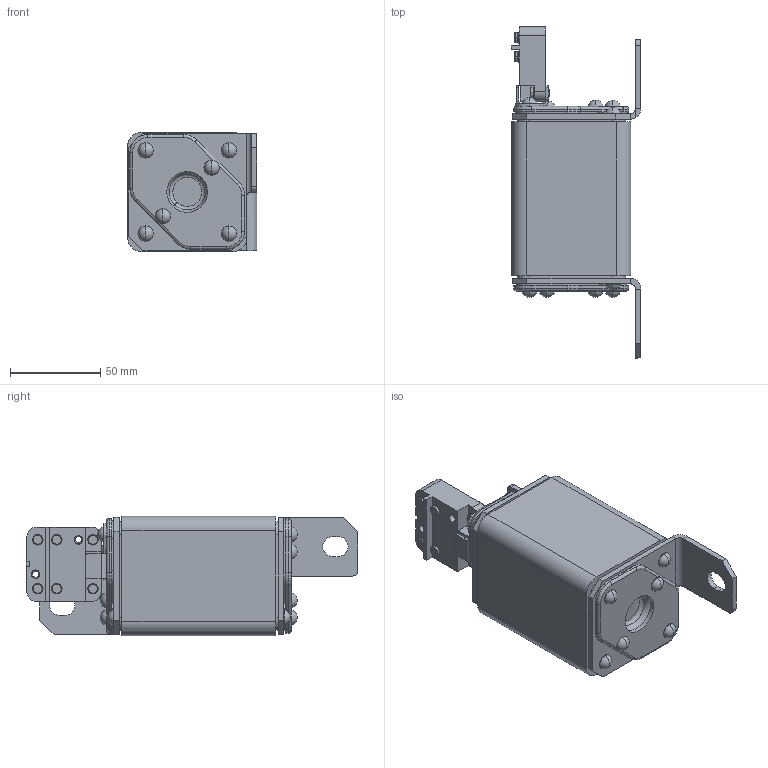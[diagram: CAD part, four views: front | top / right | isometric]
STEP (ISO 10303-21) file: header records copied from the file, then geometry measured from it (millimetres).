
FILE_DESCRIPTION (( 'STEP AP214' ), '1' );
FILE_NAME ('砎槼隰譇膻蠈錪 珫57-37971-XXXA-XXXX-忡曖.STEP', '2023-05-11T12:22:56', ( '' ), ( '' ), 'SwSTEP 2.0', 'SolidWorks 2018', '' );
FILE_SCHEMA (( 'AUTOMOTIVE_DESIGN' ));
Length unit declared in the file: millimetre
Products named in the file (1): 砎槼隰譇膻蠈錪 珫57-37971-XXXA-XXXX-忡曖
Bounding box: 71.8 x 183.5 x 66 mm (x, y, z)
Volume: 447378.5 mm3; surface area: 60803.5 mm2
Topology: 1 solids, 19 shells, 708 faces, 1674 edges, 1059 vertices
Faces by surface type: plane 301, cylinder 283, torus 84, sphere 24, cone 16
Entity records: 28565 total; most frequent: DIRECTION 3858, CARTESIAN_POINT 3715, ORIENTED_EDGE 3348, EDGE_CURVE 1674, AXIS2_PLACEMENT_3D 1516, VERTEX_POINT 1059, VECTOR 826, LINE 826
